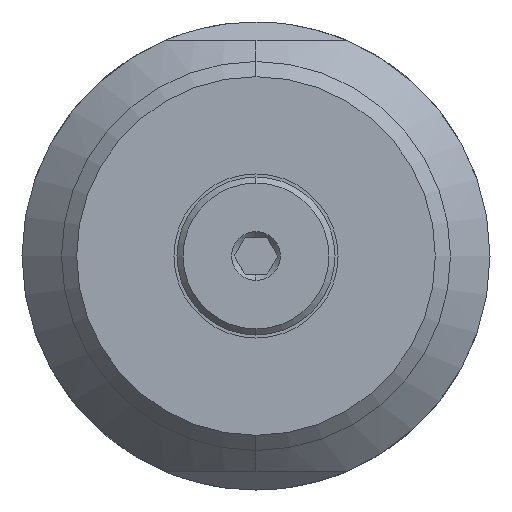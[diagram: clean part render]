
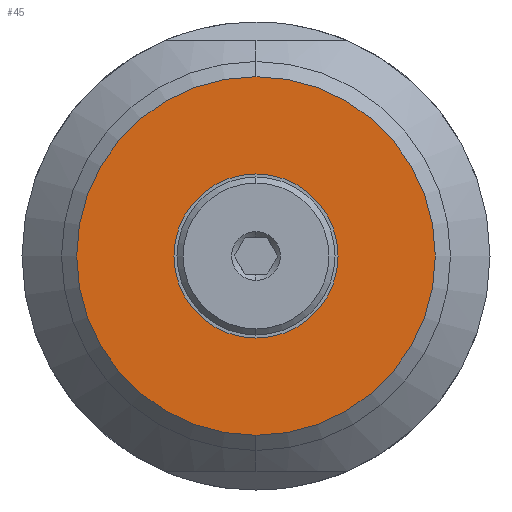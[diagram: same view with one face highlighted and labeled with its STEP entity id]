
A CAD part, left-side view. The second image highlights one B-rep face of the part: STEP entity #45.
In plain terms, the highlighted planar face has unit normal (-1, 0, 0).
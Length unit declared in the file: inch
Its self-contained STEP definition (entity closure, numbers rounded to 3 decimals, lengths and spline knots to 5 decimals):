
#36 = EDGE_CURVE ( 'NONE', #78, #89, #696, .T. ) ;
#37 = ORIENTED_EDGE ( 'NONE', *, *, #77, .T. ) ;
#39 = EDGE_LOOP ( 'NONE', ( #180, #37 ) ) ;
#42 = ORIENTED_EDGE ( 'NONE', *, *, #258, .F. ) ;
#43 = EDGE_CURVE ( 'NONE', #262, #260, #637, .T. ) ;
#45 = ADVANCED_FACE ( 'NONE', ( #648, #634 ), #632, .F. ) ;
#48 = ORIENTED_EDGE ( 'NONE', *, *, #43, .F. ) ;
#57 = EDGE_LOOP ( 'NONE', ( #48, #42 ) ) ;
#77 = EDGE_CURVE ( 'NONE', #89, #78, #749, .T. ) ;
#78 = VERTEX_POINT ( 'NONE', #718 ) ;
#89 = VERTEX_POINT ( 'NONE', #799 ) ;
#180 = ORIENTED_EDGE ( 'NONE', *, *, #36, .T. ) ;
#258 = EDGE_CURVE ( 'NONE', #260, #262, #1092, .T. ) ;
#260 = VERTEX_POINT ( 'NONE', #1040 ) ;
#262 = VERTEX_POINT ( 'NONE', #1165 ) ;
#607 = AXIS2_PLACEMENT_3D ( 'NONE', #704, #703, #702 ) ;
#613 = DIRECTION ( 'NONE',  ( -1., 0., 0. ) ) ;
#632 = PLANE ( 'NONE',  #671 ) ;
#633 = CARTESIAN_POINT ( 'NONE',  ( -1.445, 0., 0. ) ) ;
#634 = FACE_OUTER_BOUND ( 'NONE', #39, .T. ) ;
#635 = DIRECTION ( 'NONE',  ( 0., 0., 1. ) ) ;
#636 = AXIS2_PLACEMENT_3D ( 'NONE', #647, #613, #635 ) ;
#637 = CIRCLE ( 'NONE', #636, 0.135 ) ;
#647 = CARTESIAN_POINT ( 'NONE',  ( -1.445, 0., 0. ) ) ;
#648 = FACE_BOUND ( 'NONE', #57, .T. ) ;
#669 = DIRECTION ( 'NONE',  ( 0., 0., -1. ) ) ;
#670 = DIRECTION ( 'NONE',  ( 1., 0., 0. ) ) ;
#671 = AXIS2_PLACEMENT_3D ( 'NONE', #633, #670, #669 ) ;
#696 = CIRCLE ( 'NONE', #607, 0.295 ) ;
#702 = DIRECTION ( 'NONE',  ( 0., 0., -1. ) ) ;
#703 = DIRECTION ( 'NONE',  ( -1., 0., 0. ) ) ;
#704 = CARTESIAN_POINT ( 'NONE',  ( -1.445, 0., 0. ) ) ;
#710 = CARTESIAN_POINT ( 'NONE',  ( -1.445, 0., 0. ) ) ;
#718 = CARTESIAN_POINT ( 'NONE',  ( -1.445, 0., -0.295 ) ) ;
#749 = CIRCLE ( 'NONE', #774, 0.295 ) ;
#774 = AXIS2_PLACEMENT_3D ( 'NONE', #710, #810, #795 ) ;
#795 = DIRECTION ( 'NONE',  ( 0., 0., -1. ) ) ;
#799 = CARTESIAN_POINT ( 'NONE',  ( -1.445, 0., 0.295 ) ) ;
#810 = DIRECTION ( 'NONE',  ( -1., 0., 0. ) ) ;
#1040 = CARTESIAN_POINT ( 'NONE',  ( -1.445, 0., -0.135 ) ) ;
#1063 = DIRECTION ( 'NONE',  ( 0., 0., 1. ) ) ;
#1092 = CIRCLE ( 'NONE', #1166, 0.135 ) ;
#1120 = CARTESIAN_POINT ( 'NONE',  ( -1.445, 0., 0. ) ) ;
#1164 = DIRECTION ( 'NONE',  ( -1., 0., 0. ) ) ;
#1165 = CARTESIAN_POINT ( 'NONE',  ( -1.445, 0., 0.135 ) ) ;
#1166 = AXIS2_PLACEMENT_3D ( 'NONE', #1120, #1164, #1063 ) ;
